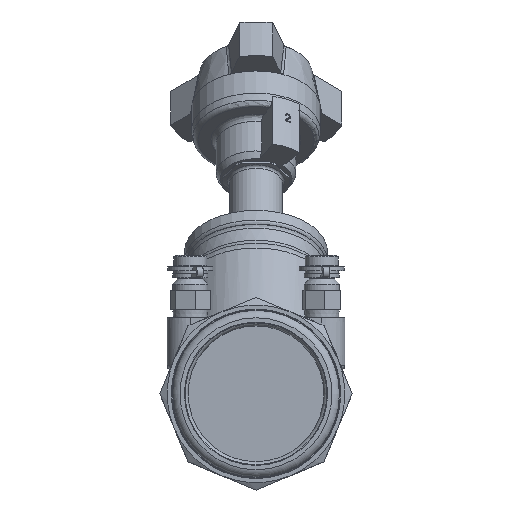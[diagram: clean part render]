
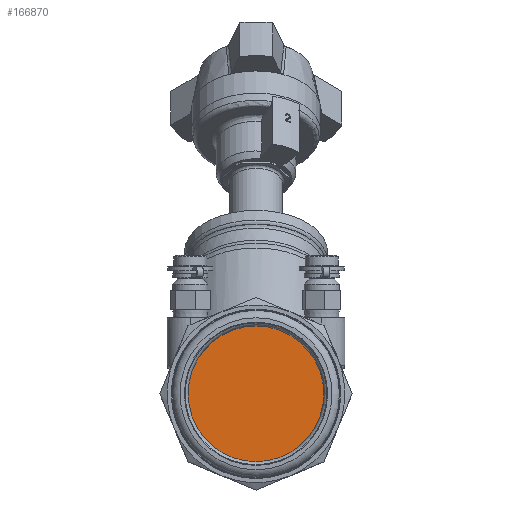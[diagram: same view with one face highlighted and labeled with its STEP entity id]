
A CAD part, left-side view. The second image highlights one B-rep face of the part: STEP entity #166870.
In plain terms, the highlighted planar face has unit normal (-1, 0, 0).
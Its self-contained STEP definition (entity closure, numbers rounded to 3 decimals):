
#166854=CARTESIAN_POINT('',(-152.,13.287,0.));
#166855=DIRECTION('',(-1.0,0.0,0.0));
#166856=DIRECTION('',(0.0,0.0,1.0));
#166857=AXIS2_PLACEMENT_3D('',#166854,#166855,#166856);
#166858=PLANE('',#166857);
#166859=CARTESIAN_POINT('',(-152.,26.575,0.));
#166860=VERTEX_POINT('',#166859);
#166861=CARTESIAN_POINT('',(-152.,0.,0.));
#166862=DIRECTION('',(-1.0,0.0,0.0));
#166863=DIRECTION('',(0.0,1.0,0.0));
#166864=AXIS2_PLACEMENT_3D('',#166861,#166862,#166863);
#166865=CIRCLE('',#166864,26.575);
#166866=EDGE_CURVE('',#166860,#166860,#166865,.T.);
#166867=ORIENTED_EDGE('',*,*,#166866,.T.);
#166868=EDGE_LOOP('',(#166867));
#166869=FACE_OUTER_BOUND('',#166868,.T.);
#166870=ADVANCED_FACE('',(#166869),#166858,.T.);
